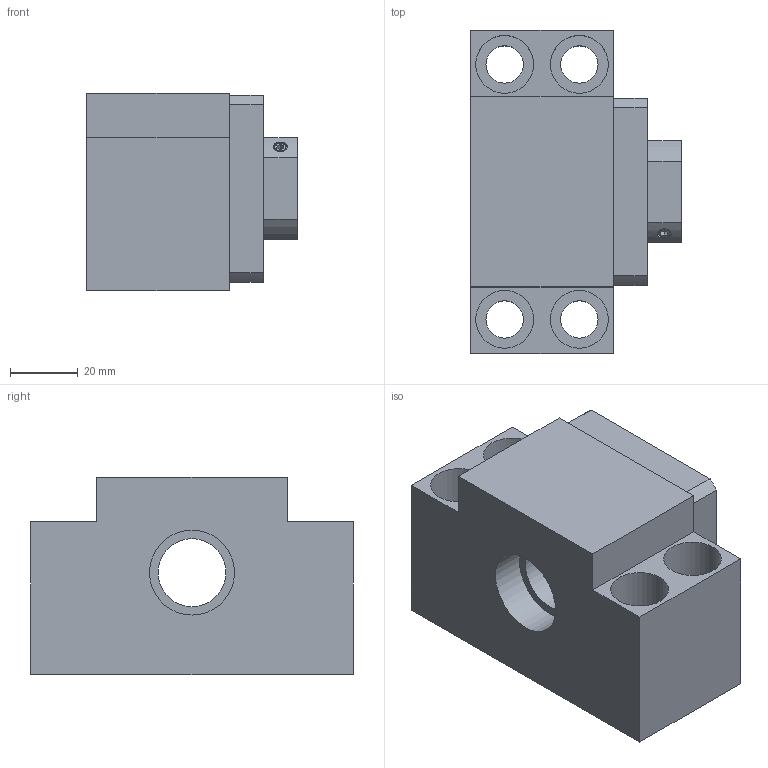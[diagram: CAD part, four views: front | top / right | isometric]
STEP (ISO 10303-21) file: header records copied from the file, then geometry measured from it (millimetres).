
FILE_DESCRIPTION((''),'2;1');
FILE_NAME('D:\製品 (図面)\カタログ用3D\ネジ関連\STEP形式\SUH\SUH20.stp','2010-06-02T14:51:06',('Tsuchiya'),(''),'Autodesk Inventor 10','Autodesk Inventor 10','');
FILE_SCHEMA(('AUTOMOTIVE_DESIGN { 1 0 10303 214 1 1 1 1 }'));
Length unit declared in the file: millimetre
Products named in the file (1): SUH20
Bounding box: 62 x 95 x 58 mm (x, y, z)
Volume: 199689 mm3; surface area: 39432 mm2
Topology: 1 solids, 1 shells, 107 faces, 239 edges, 158 vertices
Faces by surface type: plane 64, bspline 20, cylinder 18, torus 4, cone 1
Full cylindrical faces by diameter (mm): 4 x1, 10 x4, 20 x1, 25 x1, 25.5 x1, 26 x1, 38 x1
Entity records: 3085 total; most frequent: CARTESIAN_POINT 766, DIRECTION 450, ORIENTED_EDGE 424, EDGE_CURVE 212, EDGE_LOOP 168, VERTEX_POINT 158, AXIS2_PLACEMENT_3D 152, VECTOR 146
